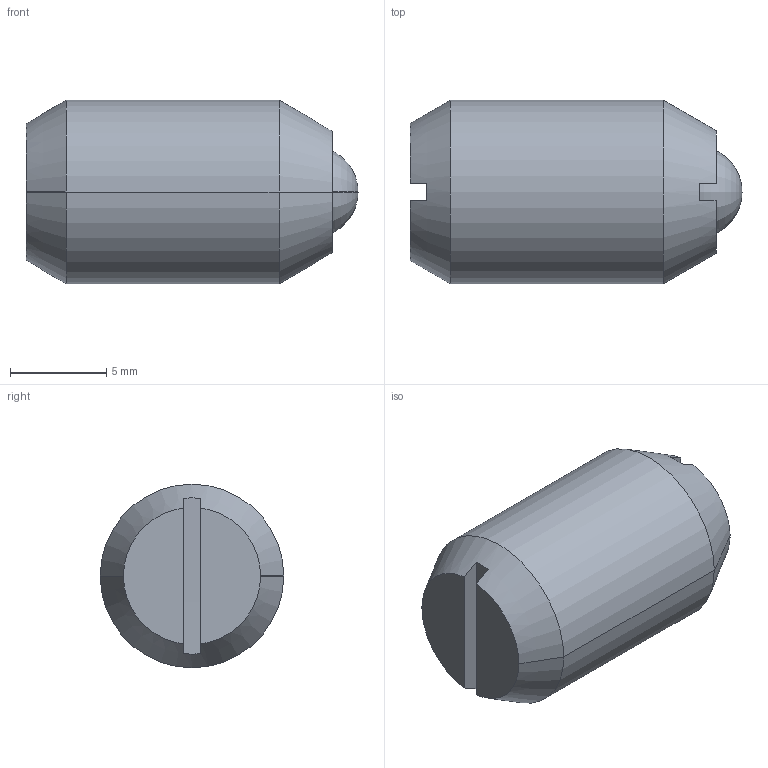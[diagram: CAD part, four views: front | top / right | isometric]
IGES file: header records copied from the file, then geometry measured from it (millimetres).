
Start section:  PTC IGES file: b58-part-3d.igs
Global section: file name: b58-part-3d.igs; native system: Pro/ENGINEER by Parametric Technology Corporation; preprocessor: 2002350; author: chant; organization: Unknown; date: 070201.132041; units: inch
Bounding box: 17.22 x 9.53 x 9.53 mm (x, y, z)
Surface area: 780 mm2 (no closed solid volume)
Topology: 0 solids, 0 shells, 24 faces, 174 edges, 220 vertices
Faces by surface type: revolution 13, bspline 11
